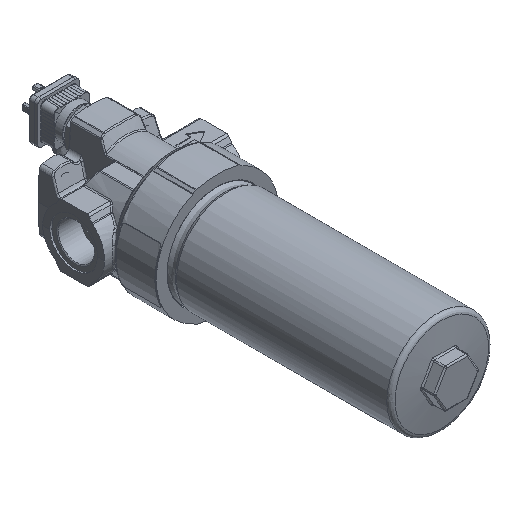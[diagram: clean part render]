
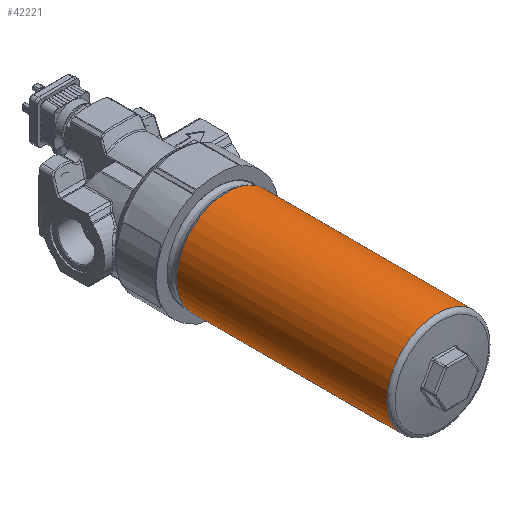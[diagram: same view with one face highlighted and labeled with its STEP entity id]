
A CAD part, isometric view. The second image highlights one B-rep face of the part: STEP entity #42221.
In plain terms, the highlighted free-form (B-spline) face has degree [2, 1] with [7, 2] control points.
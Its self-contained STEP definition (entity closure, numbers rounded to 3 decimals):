
#42111=CARTESIAN_POINT('V478',(-65.874,
   -157.502,-19.388));
#42112=VERTEX_POINT('V478',#42111);
#42126=CARTESIAN_POINT('E834',(-65.874,
   -157.502,-19.388));
#42127=CARTESIAN_POINT('E834',(-65.874,
   -157.502,-17.657));
#42128=CARTESIAN_POINT('E834',(-65.619,
   -157.502,-14.195));
#42129=CARTESIAN_POINT('E834',(-64.478,
   -157.502,-9.116));
#42130=CARTESIAN_POINT('E834',(-62.604,
   -157.502,-4.258));
#42131=CARTESIAN_POINT('E834',(-60.037,
   -157.502,0.272));
#42132=CARTESIAN_POINT('E834',(-56.833,
   -157.502,4.376));
#42133=CARTESIAN_POINT('E834',(-53.061,
   -157.502,7.965));
#42134=CARTESIAN_POINT('E834',(-48.803,
   -157.502,10.962));
#42135=CARTESIAN_POINT('E834',(-43.735,
   -157.502,13.511));
#42136=CARTESIAN_POINT('E834',(-37.856,
   -157.502,15.323));
#42137=CARTESIAN_POINT('E834',(-31.279,
   -157.502,16.062));
#42138=CARTESIAN_POINT('E834',(-24.678,
   -157.502,15.566));
#42139=CARTESIAN_POINT('E834',(-18.02,
   -157.502,13.781));
#42140=CARTESIAN_POINT('E834',(-11.589,
   -157.502,10.59));
#42141=CARTESIAN_POINT('E834',(-5.88,
   -157.502,6.059));
#42142=CARTESIAN_POINT('E834',(-1.313,
   -157.502,0.599));
#42143=CARTESIAN_POINT('E834',(2.023,
   -157.502,-5.504));
#42144=CARTESIAN_POINT('E834',(4.105,
   -157.502,-12.14));
#42145=CARTESIAN_POINT('E834',(4.844,
   -157.502,-18.989));
#42146=CARTESIAN_POINT('E834',(4.258,
   -157.502,-25.786));
#42147=CARTESIAN_POINT('E834',(2.412,
   -157.502,-32.286));
#42148=CARTESIAN_POINT('E834',(-0.634,
   -157.502,-38.318));
#42149=CARTESIAN_POINT('E834',(-4.724,
   -157.502,-43.604));
#42150=CARTESIAN_POINT('E834',(-9.673,
   -157.502,-47.985));
#42151=CARTESIAN_POINT('E834',(-15.279,
   -157.502,-51.345));
#42152=CARTESIAN_POINT('E834',(-21.406,
   -157.502,-53.619));
#42153=CARTESIAN_POINT('E834',(-28.734,
   -157.502,-54.883));
#42154=CARTESIAN_POINT('E834',(-37.098,
   -157.502,-54.449));
#42155=CARTESIAN_POINT('E834',(-45.051,
   -157.502,-51.872));
#42156=CARTESIAN_POINT('E834',(-51.42,
   -157.502,-48.095));
#42157=CARTESIAN_POINT('E834',(-56.366,
   -157.502,-43.769));
#42158=CARTESIAN_POINT('E834',(-60.473,
   -157.502,-38.536));
#42159=CARTESIAN_POINT('E834',(-63.554,
   -157.502,-32.55));
#42160=CARTESIAN_POINT('E834',(-65.448,
   -157.502,-26.09));
#42161=CARTESIAN_POINT('E834',(-65.874,
   -157.502,-21.621));
#42162=CARTESIAN_POINT('E834',(-65.874,
   -157.502,-19.388));
#42163=B_SPLINE_CURVE_WITH_KNOTS('E834',3,(#42126,#42127,#42128,
   #42129,#42130,#42131,#42132,#42133,#42134,#42135,#42136,#42137,
   #42138,#42139,#42140,#42141,#42142,#42143,#42144,#42145,#42146,
   #42147,#42148,#42149,#42150,#42151,#42152,#42153,#42154,#42155,
   #42156,#42157,#42158,#42159,#42160,#42161,#42162),.UNSPECIFIED.,
   .T.,.U.,(4,1,1,1,1,1,1,1,1,1,1,1,1,1,1,1,1,1,1,1,1,1,1,1,1,1,1,1,
   1,1,1,1,1,1,4),(2.0,3.067,4.134,
   5.201,6.269,7.336,
   8.403,9.47,10.537,
   11.891,13.246,14.6,
   15.954,17.477,19.,
   20.422,21.845,23.267,
   24.689,26.071,27.453,
   28.836,30.218,31.555,
   32.892,34.23,35.567,
   37.457,39.347,40.675,
   42.003,43.381,44.758,
   46.135,47.512),.UNSPECIFIED.);
#42164=EDGE_CURVE('E834',#42112,#42112,#42163,.T.);
#42171=CARTESIAN_POINT('F346',(-65.874,
   -11.371,-19.388));
#42172=CARTESIAN_POINT('F346',(-65.874,
   -11.371,-80.443));
#42173=CARTESIAN_POINT('F346',(-12.999,
   -11.371,-49.915));
#42174=CARTESIAN_POINT('F346',(39.876,
   -11.371,-19.388));
#42175=CARTESIAN_POINT('F346',(-12.999,
   -11.371,11.14));
#42176=CARTESIAN_POINT('F346',(-65.874,
   -11.371,41.667));
#42177=CARTESIAN_POINT('F346',(-65.874,
   -11.371,-19.388));
#42178=CARTESIAN_POINT('F346',(-65.874,
   -160.251,-19.388));
#42179=CARTESIAN_POINT('F346',(-65.874,
   -160.251,-80.443));
#42180=CARTESIAN_POINT('F346',(-12.999,
   -160.251,-49.915));
#42181=CARTESIAN_POINT('F346',(39.876,
   -160.251,-19.388));
#42182=CARTESIAN_POINT('F346',(-12.999,
   -160.251,11.14));
#42183=CARTESIAN_POINT('F346',(-65.874,
   -160.251,41.667));
#42184=CARTESIAN_POINT('F346',(-65.874,
   -160.251,-19.388));
#42192=(BOUNDED_SURFACE()B_SPLINE_SURFACE(2,1,((#42171,#42178),(
   #42172,#42179),(#42173,#42180),(#42174,#42181),(#42175,
   #42182),(#42176,#42183),(#42177,#42184)),.CYLINDRICAL_SURF.,
   .T.,.F.,.U.)B_SPLINE_SURFACE_WITH_KNOTS((3,2,2,3),(2,2),(0.0,
   0.82,1.64,2.461),(0.0,1.0),
   .UNSPECIFIED.)GEOMETRIC_REPRESENTATION_ITEM()
   RATIONAL_B_SPLINE_SURFACE(((1.0,1.0),(0.5,
   0.5),(1.0,1.0),(0.5,
   0.5),(1.0,1.0),(0.5,
   0.5),(1.0,1.0)))REPRESENTATION_ITEM('F346')
   SURFACE());
#42193=ORIENTED_EDGE('E834',*,*,#42164,.T.);
#42194=CARTESIAN_POINT('V479',(-65.874,
   -11.371,-19.388));
#42195=VERTEX_POINT('V479',#42194);
#42196=CARTESIAN_POINT('E835',(-65.874,
   -157.502,-19.388));
#42197=CARTESIAN_POINT('E835',(-65.874,
   -11.371,-19.388));
#42198=B_SPLINE_CURVE_WITH_KNOTS('E835',1,(#42196,#42197),
   .POLYLINE_FORM.,.F.,.U.,(2,2),(0.018,1.0),
   .UNSPECIFIED.);
#42199=EDGE_CURVE('E835',#42112,#42195,#42198,.T.);
#42200=ORIENTED_EDGE('E835',*,*,#42199,.T.);
#42201=CARTESIAN_POINT('E836',(-65.874,
   -11.371,-19.388));
#42202=CARTESIAN_POINT('E836',(-65.874,
   -11.371,-80.443));
#42203=CARTESIAN_POINT('E836',(-12.999,
   -11.371,-49.915));
#42204=CARTESIAN_POINT('E836',(39.876,
   -11.371,-19.388));
#42205=CARTESIAN_POINT('E836',(-12.999,
   -11.371,11.14));
#42206=CARTESIAN_POINT('E836',(-65.874,
   -11.371,41.667));
#42207=CARTESIAN_POINT('E836',(-65.874,
   -11.371,-19.388));
#42215=(BOUNDED_CURVE()B_SPLINE_CURVE(2,(#42201,#42202,#42203,
   #42204,#42205,#42206,#42207),.CIRCULAR_ARC.,.T.,.U.)
   B_SPLINE_CURVE_WITH_KNOTS((3,2,2,3),(0.0,0.82,
   1.64,2.461),.UNSPECIFIED.)CURVE()
   GEOMETRIC_REPRESENTATION_ITEM()RATIONAL_B_SPLINE_CURVE((1.0,
   0.5,1.0,0.5,1.0,0.5,1.0)
   )REPRESENTATION_ITEM('E836'));
#42216=EDGE_CURVE('E836',#42195,#42195,#42215,.T.);
#42217=ORIENTED_EDGE('E836',*,*,#42216,.T.);
#42218=ORIENTED_EDGE('E835',*,*,#42199,.F.);
#42219=EDGE_LOOP('F346',(#42193,#42200,#42217,#42218));
#42220=FACE_OUTER_BOUND('F346',#42219,.T.);
#42221=ADVANCED_FACE('F346',(#42220),#42192,.T.);
